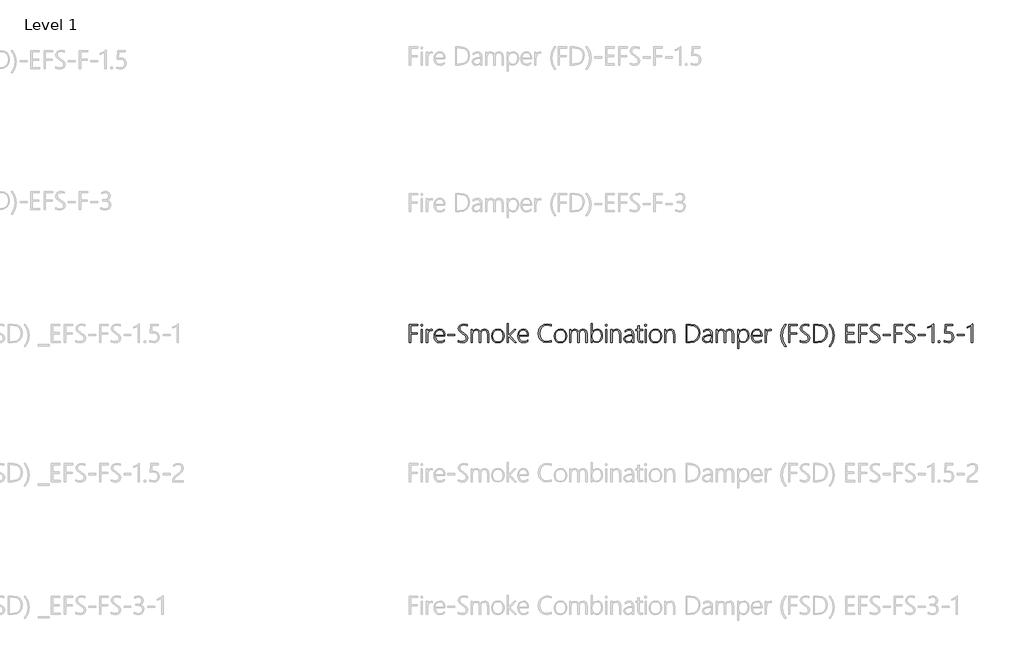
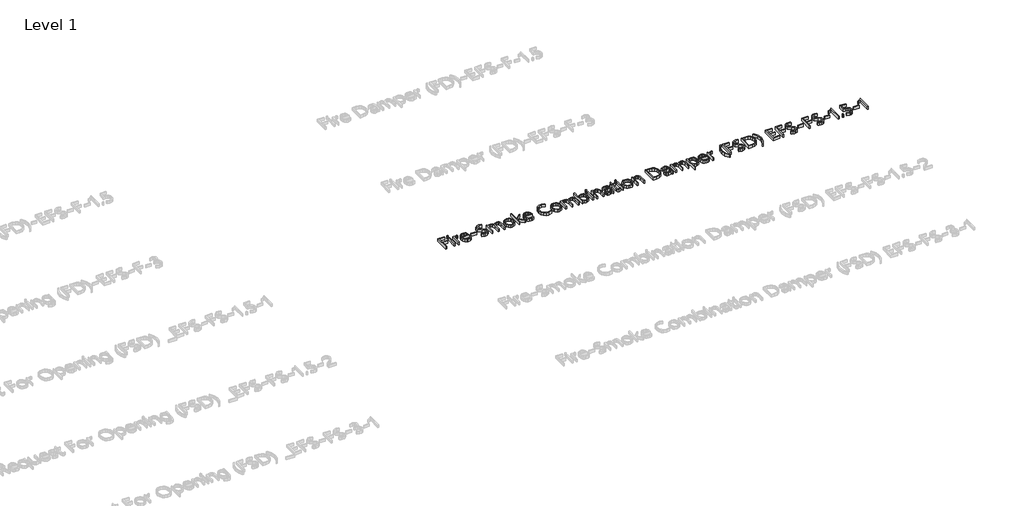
# One storey, part 11 of 13: 1 proxy.
"""IFC4 building model written with IfcOpenShell, lengths in millimetres."""

from ifc_helpers import new_model, si_unit, origin, origin_with_axes, place, context, project, spatial, polyline, outline, extrude, element, save

model = new_model("IFC4")

# Units and contexts
model_context = context("Model", 3, world=origin())
ifc_project = project(units=[si_unit("LENGTHUNIT", "METRE", prefix="MILLI")], contexts=[model_context])

# Site, building, storey
site = spatial("IfcSite", under=ifc_project)
building = spatial("IfcBuilding", under=site)
storey = spatial("IfcBuildingStorey", under=building, Name="Level 1", Elevation=0.0)

# Proxy
placement = place(None, origin())
element("IfcBuildingElementProxy", 1, Name="24\" Arial", ObjectType="24\" Arial", at=placement, inside=storey, context=model_context, shape_type="SweptSolid", body=[
    extrude(outline(polyline([(-11432.1552252, 6318.638518), (-11432.1552252, 6277.8448825), (-11395.1999406, 6277.8448825), (-11395.1999406, 6271.5666498), (-11432.1552252, 6271.5666498), (-11432.1552252, 6224.970856), (-11439.0583058, 6224.970856), (-11439.0583058, 6324.9762601), (-11392.3137388, 6324.9762601), (-11392.3137388, 6318.638518), (-11432.1552252, 6318.638518)])), origin_with_axes(), (0.0, 0.0, 1.0), 20.0),
    extrude(outline(polyline([(-11370.6523481, 6314.383602), (-11374.3419256, 6315.9159668), (-11375.9486771, 6319.8287043), (-11374.312171, 6323.5480365), (-11370.6523481, 6324.9762601), (-11366.8437519, 6323.5777912), (-11365.2072458, 6319.8287043), (-11366.8139973, 6315.9903535), (-11370.6523481, 6314.383602)])), origin_with_axes(), (0.0, 0.0, 1.0), 20.0),
    extrude(outline(polyline([(-11373.8063418, 6224.970856), (-11373.8063418, 6296.3820342), (-11367.3793358, 6296.3820342), (-11367.3793358, 6224.970856), (-11373.8063418, 6224.970856)])), origin_with_axes(), (0.0, 0.0, 1.0), 20.0),
    extrude(outline(polyline([(-11311.5595982, 6289.6872362), (-11319.0875266, 6291.9783448), (-11326.8348955, 6289.7988162), (-11333.2358662, 6283.2602302), (-11337.5316949, 6272.7122041), (-11338.9636378, 6258.5043551), (-11338.9636378, 6224.970856), (-11345.2418706, 6224.970856), (-11345.2418706, 6296.3820342), (-11338.9636378, 6296.3820342), (-11338.9636378, 6280.5525563), (-11330.9298803, 6293.2429178), (-11318.6709614, 6297.7805031), (-11311.5595982, 6296.5308074), (-11311.5595982, 6289.6872362)])), origin_with_axes(), (0.0, 0.0, 1.0), 20.0),
    extrude(outline(polyline([(-11296.0871763, 6260.4086532), (-11294.3874415, 6247.2868492), (-11289.288237, 6237.3785482), (-11281.2284442, 6231.1523862), (-11270.6469441, 6229.0769988), (-11258.7748357, 6231.2937208), (-11247.2002739, 6237.9438867), (-11247.2002739, 6231.1003155), (-11258.9384863, 6225.1865773), (-11271.956149, 6223.2153313), (-11284.4382279, 6225.6924065), (-11294.2721422, 6233.1236322), (-11300.6545162, 6245.0701272), (-11302.7819742, 6261.0930103), (-11300.5578136, 6275.4868259), (-11293.8853316, 6287.4258822), (-11283.6571681, 6295.4596398), (-11270.7659627, 6298.1375589), (-11259.0091537, 6295.798099), (-11250.3393903, 6288.7797192), (-11244.99471, 6277.7221445), (-11243.2131498, 6263.2651003), (-11243.2131498, 6260.4086532), (-11296.0871763, 6260.4086532)]), holes=[polyline([(-11249.9079478, 6266.2703207), (-11251.6188406, 6277.2200347), (-11255.8588793, 6285.4323202), (-11262.4123426, 6290.5649986), (-11271.0635093, 6292.2758914), (-11280.2316631, 6290.5910339), (-11287.6814855, 6285.5364615), (-11293.0112886, 6277.3502113), (-11295.8193844, 6266.2703207), (-11249.9079478, 6266.2703207)])]), origin_with_axes(), (0.0, 0.0, 1.0), 20.0),
    extrude(outline(polyline([(-11226.5802963, 6263.6816655), (-11226.5802963, 6269.9598983), (-11188.4348253, 6269.9598983), (-11188.4348253, 6263.6816655), (-11226.5802963, 6263.6816655)])), origin_with_axes(), (0.0, 0.0, 1.0), 20.0),
    extrude(outline(polyline([(-11169.867919, 6228.541415), (-11169.867919, 6236.3966445), (-11159.0595396, 6231.2862821), (-11148.1172643, 6229.582828), (-11130.3239791, 6234.4179598), (-11125.7715165, 6240.2238374), (-11124.254029, 6247.9712063), (-11128.3452944, 6260.2152479), (-11146.0344383, 6272.6675721), (-11165.2708244, 6287.5002689), (-11169.3025805, 6301.261798), (-11167.2457898, 6311.0547997), (-11161.0754177, 6319.2484885), (-11151.4758213, 6324.7940128), (-11139.1313577, 6326.6425209), (-11121.2785632, 6323.6373005), (-11121.2785632, 6316.4069187), (-11140.0239975, 6320.3642881), (-11156.1658992, 6315.2018551), (-11160.6402558, 6309.3439068), (-11162.131708, 6302.0949284), (-11158.0553199, 6289.8955188), (-11140.4405627, 6277.5473359), (-11121.7843924, 6263.4287509), (-11117.1426658, 6249.2506566), (-11119.1399472, 6238.7993331), (-11125.1317914, 6230.4754677), (-11134.7685811, 6225.0303654), (-11147.7006991, 6223.2153313), (-11159.5876848, 6224.8220828), (-11169.867919, 6228.541415)])), origin_with_axes(), (0.0, 0.0, 1.0), 20.0),
    extrude(outline(polyline([(-11008.1216006, 6224.970856), (-11008.1216006, 6267.9365815), (-11012.3467619, 6286.8307891), (-11017.7993029, 6290.9146158), (-11025.7066032, 6292.2758914), (-11033.5581134, 6290.4608573), (-11040.271508, 6285.015755), (-11044.8797606, 6276.8332241), (-11046.4158448, 6266.8059046), (-11046.4158448, 6224.970856), (-11052.8428509, 6224.970856), (-11052.8428509, 6268.4126561), (-11057.3729975, 6286.3100826), (-11063.0356807, 6290.7844392), (-11070.9634373, 6292.2758914), (-11078.9488435, 6290.4534186), (-11085.4688329, 6284.9860003), (-11089.8092935, 6276.6249415), (-11091.2561137, 6266.1215474), (-11091.2561137, 6224.970856), (-11097.6831198, 6224.970856), (-11097.6831198, 6296.3820342), (-11091.2561137, 6296.3820342), (-11091.2561137, 6284.5396805), (-11081.7941327, 6294.7380893), (-11069.1484032, 6298.1375589), (-11055.8034393, 6293.6297283), (-11048.2903883, 6281.802252), (-11038.7093885, 6293.8380109), (-11025.1412647, 6298.1375589), (-11014.8963642, 6296.3243845), (-11007.5785781, 6290.8848612), (-11003.1879064, 6281.818989), (-11001.7243492, 6269.1267678), (-11001.7243492, 6224.970856), (-11008.1216006, 6224.970856)])), origin_with_axes(), (0.0, 0.0, 1.0), 20.0),
    extrude(outline(polyline([(-10950.9331488, 6223.2153313), (-10964.9252765, 6225.7891091), (-10975.6592692, 6233.5104428), (-10982.4879631, 6245.3453578), (-10984.7641944, 6260.2598799), (-10982.3838218, 6276.115393), (-10975.242704, 6288.095362), (-10964.2186034, 6295.6270097), (-10950.1892823, 6298.1375589), (-10936.5058592, 6295.641887), (-10926.0433777, 6288.1548713), (-10919.4043698, 6276.2567277), (-10917.1913671, 6260.5276718), (-10919.4490018, 6245.4494991), (-10926.2219057, 6233.5401974), (-10936.9149857, 6225.7965478), (-10950.9331488, 6223.2153313)]), holes=[polyline([(-10950.4570742, 6292.2758914), (-10961.7935988, 6290.1484334), (-10970.5712227, 6283.7660594), (-10976.194853, 6273.5974051), (-10978.0693964, 6260.1111066), (-10976.239485, 6247.4728158), (-10970.7497507, 6237.5868308), (-10962.0837067, 6231.2044568), (-10950.7248662, 6229.0769988), (-10939.3176743, 6231.1709828), (-10930.8636323, 6237.4529349), (-10925.6305319, 6247.4467805), (-10923.8861651, 6260.6764451), (-10925.6193739, 6274.166463), (-10930.8190003, 6284.1082379), (-10939.1949364, 6290.233978), (-10950.4570742, 6292.2758914)])]), origin_with_axes(), (0.0, 0.0, 1.0), 20.0),
    extrude(outline(polyline([(-10858.7532197, 6224.970856), (-10892.9413212, 6260.2598799), (-10893.2091131, 6224.970856), (-10899.6361192, 6224.970856), (-10899.6361192, 6330.6891543), (-10893.2091131, 6330.6891543), (-10893.2091131, 6262.5509885), (-10860.5087445, 6296.3820342), (-10852.207195, 6296.3820342), (-10886.09775, 6261.8071221), (-10849.4697665, 6224.970856), (-10858.7532197, 6224.970856)])), origin_with_axes(), (0.0, 0.0, 1.0), 20.0),
    extrude(outline(polyline([(-10835.2470402, 6260.4086532), (-10833.5473054, 6247.2868492), (-10828.448101, 6237.3785482), (-10820.3883081, 6231.1523862), (-10809.806808, 6229.0769988), (-10797.9346997, 6231.2937208), (-10786.3601379, 6237.9438867), (-10786.3601379, 6231.1003155), (-10798.0983503, 6225.1865773), (-10811.116013, 6223.2153313), (-10823.5980918, 6225.6924065), (-10833.4320061, 6233.1236322), (-10839.8143802, 6245.0701272), (-10841.9418382, 6261.0930103), (-10839.7176775, 6275.4868259), (-10833.0451956, 6287.4258822), (-10822.817032, 6295.4596398), (-10809.9258267, 6298.1375589), (-10798.1690176, 6295.798099), (-10789.4992543, 6288.7797192), (-10784.1545739, 6277.7221445), (-10782.3730138, 6263.2651003), (-10782.3730138, 6260.4086532), (-10835.2470402, 6260.4086532)]), holes=[polyline([(-10789.0678117, 6266.2703207), (-10790.7787045, 6277.2200347), (-10795.0187432, 6285.4323202), (-10801.5722066, 6290.5649986), (-10810.2233732, 6292.2758914), (-10819.3915271, 6290.5910339), (-10826.8413495, 6285.5364615), (-10832.1711525, 6277.3502113), (-10834.9792483, 6266.2703207), (-10789.0678117, 6266.2703207)])]), origin_with_axes(), (0.0, 0.0, 1.0), 20.0),
    extrude(outline(polyline([(-10656.5703217, 6228.2438684), (-10681.8915352, 6223.2153313), (-10700.5030735, 6226.6594329), (-10715.3357703, 6236.9917377), (-10725.0432274, 6252.8732862), (-10728.2790464, 6272.9651187), (-10724.7717161, 6294.868266), (-10714.2497253, 6311.9585974), (-10698.3272642, 6322.97154), (-10678.6185229, 6326.6425209), (-10656.5703217, 6322.9529433), (-10656.5703217, 6315.6332976), (-10678.7375415, 6320.3642881), (-10695.8092763, 6317.1731011), (-10709.3550842, 6307.59954), (-10718.1922175, 6292.7296499), (-10721.1379285, 6273.6494758), (-10718.3223941, 6255.3652387), (-10709.8757907, 6241.395427), (-10697.1073232, 6232.5359777), (-10681.3261968, 6229.582828), (-10656.5703217, 6234.9386663), (-10656.5703217, 6228.2438684)])), origin_with_axes(), (0.0, 0.0, 1.0), 20.0),
    extrude(outline(polyline([(-10606.2551958, 6223.2153313), (-10620.2473235, 6225.7891091), (-10630.9813162, 6233.5104428), (-10637.8100101, 6245.3453578), (-10640.0862414, 6260.2598799), (-10637.7058688, 6276.115393), (-10630.564751, 6288.095362), (-10619.5406504, 6295.6270097), (-10605.5113293, 6298.1375589), (-10591.8279062, 6295.641887), (-10581.3654247, 6288.1548713), (-10574.7264168, 6276.2567277), (-10572.5134141, 6260.5276718), (-10574.7710488, 6245.4494991), (-10581.5439527, 6233.5401974), (-10592.2370327, 6225.7965478), (-10606.2551958, 6223.2153313)]), holes=[polyline([(-10605.7791212, 6292.2758914), (-10617.1156458, 6290.1484334), (-10625.8932697, 6283.7660594), (-10631.5169, 6273.5974051), (-10633.3914434, 6260.1111066), (-10631.561532, 6247.4728158), (-10626.0717977, 6237.5868308), (-10617.4057537, 6231.2044568), (-10606.0469132, 6229.0769988), (-10594.6397213, 6231.1709828), (-10586.1856793, 6237.4529349), (-10580.9525789, 6247.4467805), (-10579.2082121, 6260.6764451), (-10580.9414209, 6274.166463), (-10586.1410473, 6284.1082379), (-10594.5169834, 6290.233978), (-10605.7791212, 6292.2758914)])]), origin_with_axes(), (0.0, 0.0, 1.0), 20.0),
    extrude(outline(polyline([(-10465.396647, 6224.970856), (-10465.396647, 6267.9365815), (-10469.6218083, 6286.8307891), (-10475.0743493, 6290.9146158), (-10482.9816496, 6292.2758914), (-10490.8331598, 6290.4608573), (-10497.5465544, 6285.015755), (-10502.154807, 6276.8332241), (-10503.6908912, 6266.8059046), (-10503.6908912, 6224.970856), (-10510.1178972, 6224.970856), (-10510.1178972, 6268.4126561), (-10514.6480439, 6286.3100826), (-10520.3107271, 6290.7844392), (-10528.2384837, 6292.2758914), (-10536.2238899, 6290.4534186), (-10542.7438792, 6284.9860003), (-10547.0843399, 6276.6249415), (-10548.5311601, 6266.1215474), (-10548.5311601, 6224.970856), (-10554.9581662, 6224.970856), (-10554.9581662, 6296.3820342), (-10548.5311601, 6296.3820342), (-10548.5311601, 6284.5396805), (-10539.069179, 6294.7380893), (-10526.4234496, 6298.1375589), (-10513.0784857, 6293.6297283), (-10505.5654346, 6281.802252), (-10495.9844349, 6293.8380109), (-10482.4163111, 6298.1375589), (-10472.1714105, 6296.3243845), (-10464.8536245, 6290.8848612), (-10460.4629528, 6281.818989), (-10458.9993956, 6269.1267678), (-10458.9993956, 6224.970856), (-10465.396647, 6224.970856)])), origin_with_axes(), (0.0, 0.0, 1.0), 20.0),
    extrude(outline(polyline([(-10430.1968871, 6237.6760948), (-10430.464679, 6224.970856), (-10436.891685, 6224.970856), (-10436.891685, 6330.6891543), (-10430.464679, 6330.6891543), (-10430.464679, 6281.6534787), (-10419.2025411, 6293.8380109), (-10403.4772046, 6298.1375589), (-10391.3707783, 6295.7906603), (-10382.2472564, 6288.7499645), (-10376.5232042, 6277.6849512), (-10374.6151868, 6263.2651003), (-10376.8281894, 6247.0450926), (-10383.4671974, 6234.2691865), (-10393.6470096, 6225.9787951), (-10406.482425, 6223.2153313), (-10420.4299207, 6226.8305221), (-10430.1968871, 6237.6760948)]), holes=[polyline([(-10430.464679, 6264.247004), (-10430.464679, 6255.2313428), (-10428.7723828, 6245.2486552), (-10423.6954944, 6236.7834551), (-10415.8663001, 6231.0036129), (-10405.9170865, 6229.0769988), (-10395.9976276, 6231.4238974), (-10388.1386786, 6238.4645932), (-10383.0171582, 6249.3213239), (-10381.3099847, 6263.116327), (-10382.8795429, 6275.12977), (-10387.5882175, 6284.3909072), (-10394.9078632, 6290.3046454), (-10404.310335, 6292.2758914), (-10415.3902256, 6290.1819074), (-10423.6359851, 6283.8999553), (-10428.7575055, 6274.7987494), (-10430.464679, 6264.247004)])]), origin_with_axes(), (0.0, 0.0, 1.0), 20.0),
    extrude(outline(polyline([(-10356.9111655, 6224.970856), (-10356.9111655, 6296.3820342), (-10350.4841595, 6296.3820342), (-10350.4841595, 6224.970856), (-10356.9111655, 6224.970856)])), origin_with_axes(), (0.0, 0.0, 1.0), 20.0),
    extrude(outline(polyline([(-10353.7571718, 6314.383602), (-10357.4467494, 6315.9159668), (-10359.0535009, 6319.8287043), (-10357.4169947, 6323.5480365), (-10353.7571718, 6324.9762601), (-10349.9485757, 6323.5777912), (-10348.3120695, 6319.8287043), (-10349.918821, 6315.9903535), (-10353.7571718, 6314.383602)])), origin_with_axes(), (0.0, 0.0, 1.0), 20.0),
    extrude(outline(polyline([(-10279.7870932, 6224.970856), (-10279.7870932, 6266.5381126), (-10284.4288198, 6285.8414467), (-10290.230978, 6290.6672802), (-10298.3539995, 6292.2758914), (-10307.7527519, 6290.3827513), (-10315.299277, 6284.7033311), (-10320.2645854, 6276.2344117), (-10321.9196883, 6265.9727741), (-10321.9196883, 6224.970856), (-10328.3466943, 6224.970856), (-10328.3466943, 6296.3820342), (-10321.9196883, 6296.3820342), (-10321.9196883, 6283.4090035), (-10311.6320154, 6294.4554201), (-10297.2233225, 6298.1375589), (-10287.0100363, 6296.2109449), (-10279.5193013, 6290.4311026), (-10274.9222067, 6281.0732628), (-10273.3898418, 6268.4126561), (-10273.3898418, 6224.970856), (-10279.7870932, 6224.970856)])), origin_with_axes(), (0.0, 0.0, 1.0), 20.0),
    extrude(outline(polyline([(-10209.4768374, 6224.970856), (-10209.4768374, 6239.2530917), (-10219.6975623, 6227.5743886), (-10234.1732032, 6223.2153313), (-10243.2892864, 6224.6472741), (-10250.2853502, 6228.9431028), (-10254.7373909, 6235.4184602), (-10256.2214044, 6243.3889891), (-10254.6741622, 6251.8076975), (-10250.0324356, 6258.3778978), (-10231.4655293, 6265.9727741), (-10209.4768374, 6269.2457865), (-10213.7987014, 6286.5183652), (-10219.2010314, 6290.8365099), (-10226.7642934, 6292.2758914), (-10238.4132419, 6289.9029575), (-10249.7348891, 6282.7841557), (-10249.7348891, 6290.5203666), (-10238.9488257, 6295.9059596), (-10226.1394456, 6298.1375589), (-10216.3761986, 6296.4266661), (-10209.1049042, 6291.2939877), (-10204.5859156, 6282.9031743), (-10203.079586, 6271.4178765), (-10203.079586, 6224.970856), (-10209.4768374, 6224.970856)]), holes=[polyline([(-10229.144666, 6260.5276718), (-10244.9146345, 6255.3354841), (-10249.4373425, 6243.656781), (-10245.2270584, 6233.1980189), (-10233.4590914, 6229.0769988), (-10224.0268649, 6230.9887355), (-10216.3204086, 6236.7239458), (-10211.1877302, 6245.4718151), (-10209.4768374, 6256.4215291), (-10209.4768374, 6263.3841189), (-10229.144666, 6260.5276718)])]), origin_with_axes(), (0.0, 0.0, 1.0), 20.0),
    extrude(outline(polyline([(-10153.4488173, 6225.9527597), (-10162.8810437, 6223.5723871), (-10174.7531521, 6228.318255), (-10178.7105215, 6242.5558587), (-10178.7105215, 6290.5203666), (-10191.5347789, 6290.5203666), (-10191.5347789, 6296.3820342), (-10178.7105215, 6296.3820342), (-10178.7105215, 6314.9191858), (-10175.4970185, 6316.0498628), (-10172.2835155, 6317.0912758), (-10172.2835155, 6296.3820342), (-10153.4488173, 6296.3820342), (-10153.4488173, 6290.5203666), (-10172.2835155, 6290.5203666), (-10172.2835155, 6243.3889891), (-10169.9477749, 6232.6773124), (-10162.0479133, 6229.3745454), (-10153.4488173, 6231.9334459), (-10153.4488173, 6225.9527597)])), origin_with_axes(), (0.0, 0.0, 1.0), 20.0),
    extrude(outline(polyline([(-10136.6671904, 6314.383602), (-10140.3567679, 6315.9159668), (-10141.9635194, 6319.8287043), (-10140.3270133, 6323.5480365), (-10136.6671904, 6324.9762601), (-10132.8585942, 6323.5777912), (-10131.2220881, 6319.8287043), (-10132.8288396, 6315.9903535), (-10136.6671904, 6314.383602)])), origin_with_axes(), (0.0, 0.0, 1.0), 20.0),
    extrude(outline(polyline([(-10139.8211841, 6224.970856), (-10139.8211841, 6296.3820342), (-10133.3941781, 6296.3820342), (-10133.3941781, 6224.970856), (-10139.8211841, 6224.970856)])), origin_with_axes(), (0.0, 0.0, 1.0), 20.0),
    extrude(outline(polyline([(-10082.573223, 6223.2153313), (-10096.5653507, 6225.7891091), (-10107.2993434, 6233.5104428), (-10114.1280373, 6245.3453578), (-10116.4042686, 6260.2598799), (-10114.023896, 6276.115393), (-10106.8827782, 6288.095362), (-10095.8586776, 6295.6270097), (-10081.8293565, 6298.1375589), (-10068.1459334, 6295.641887), (-10057.6834519, 6288.1548713), (-10051.044444, 6276.2567277), (-10048.8314413, 6260.5276718), (-10051.089076, 6245.4494991), (-10057.8619799, 6233.5401974), (-10068.5550599, 6225.7965478), (-10082.573223, 6223.2153313)]), holes=[polyline([(-10082.0971485, 6292.2758914), (-10093.433673, 6290.1484334), (-10102.211297, 6283.7660594), (-10107.8349272, 6273.5974051), (-10109.7094707, 6260.1111066), (-10107.8795592, 6247.4728158), (-10102.3898249, 6237.5868308), (-10093.7237809, 6231.2044568), (-10082.3649404, 6229.0769988), (-10070.9577485, 6231.1709828), (-10062.5037065, 6237.4529349), (-10057.2706061, 6247.4467805), (-10055.5262393, 6260.6764451), (-10057.2594481, 6274.166463), (-10062.4590745, 6284.1082379), (-10070.8350106, 6290.233978), (-10082.0971485, 6292.2758914)])]), origin_with_axes(), (0.0, 0.0, 1.0), 20.0),
    extrude(outline(polyline([(-9982.7165923, 6224.970856), (-9982.7165923, 6266.5381126), (-9987.3583188, 6285.8414467), (-9993.1604771, 6290.6672802), (-10001.2834986, 6292.2758914), (-10010.682251, 6290.3827513), (-10018.228776, 6284.7033311), (-10023.1940845, 6276.2344117), (-10024.8491873, 6265.9727741), (-10024.8491873, 6224.970856), (-10031.2761934, 6224.970856), (-10031.2761934, 6296.3820342), (-10024.8491873, 6296.3820342), (-10024.8491873, 6283.4090035), (-10014.5615145, 6294.4554201), (-10000.1528216, 6298.1375589), (-9989.9395354, 6296.2109449), (-9982.4488003, 6290.4311026), (-9977.8517058, 6281.0732628), (-9976.3193409, 6268.4126561), (-9976.3193409, 6224.970856), (-9982.7165923, 6224.970856)])), origin_with_axes(), (0.0, 0.0, 1.0), 20.0),
    extrude(outline(polyline([(-9913.7155414, 6224.970856), (-9913.7155414, 6324.9762601), (-9888.6621198, 6324.9762601), (-9866.7626918, 6321.874337), (-9850.8141954, 6312.5685679), (-9841.0844223, 6297.3118672), (-9837.8411647, 6276.3571496), (-9841.3187403, 6255.6516273), (-9851.7514671, 6239.2382143), (-9868.3062147, 6228.5376956), (-9890.1498526, 6224.970856), (-9913.7155414, 6224.970856)]), holes=[polyline([(-9906.8124609, 6318.638518), (-9906.8124609, 6231.2490888), (-9891.1020017, 6231.2490888), (-9871.4490504, 6234.1352906), (-9856.9436548, 6242.7938959), (-9847.9949416, 6256.8901649), (-9845.0120371, 6276.0893577), (-9847.8052556, 6294.7046153), (-9856.184911, 6308.0012279), (-9870.1510034, 6315.9791955), (-9889.7035328, 6318.638518), (-9906.8124609, 6318.638518)])]), origin_with_axes(), (0.0, 0.0, 1.0), 20.0),
    extrude(outline(polyline([(-9775.2968745, 6224.970856), (-9775.2968745, 6239.2530917), (-9785.5175994, 6227.5743886), (-9799.9932403, 6223.2153313), (-9809.1093235, 6224.6472741), (-9816.1053873, 6228.9431028), (-9820.557428, 6235.4184602), (-9822.0414415, 6243.3889891), (-9820.4941993, 6251.8076975), (-9815.8524727, 6258.3778978), (-9797.2855664, 6265.9727741), (-9775.2968745, 6269.2457865), (-9779.6187385, 6286.5183652), (-9785.0210685, 6290.8365099), (-9792.5843305, 6292.2758914), (-9804.233279, 6289.9029575), (-9815.5549262, 6282.7841557), (-9815.5549262, 6290.5203666), (-9804.7688628, 6295.9059596), (-9791.9594827, 6298.1375589), (-9782.1962357, 6296.4266661), (-9774.9249413, 6291.2939877), (-9770.4059527, 6282.9031743), (-9768.8996231, 6271.4178765), (-9768.8996231, 6224.970856), (-9775.2968745, 6224.970856)]), holes=[polyline([(-9794.9647032, 6260.5276718), (-9810.7346716, 6255.3354841), (-9815.2573796, 6243.656781), (-9811.0470956, 6233.1980189), (-9799.2791285, 6229.0769988), (-9789.8469021, 6230.9887355), (-9782.1404457, 6236.7239458), (-9777.0077673, 6245.4718151), (-9775.2968745, 6256.4215291), (-9775.2968745, 6263.3841189), (-9794.9647032, 6260.5276718)])]), origin_with_axes(), (0.0, 0.0, 1.0), 20.0),
    extrude(outline(polyline([(-9657.9742598, 6224.970856), (-9657.9742598, 6267.9365815), (-9662.1994212, 6286.8307891), (-9667.6519622, 6290.9146158), (-9675.5592624, 6292.2758914), (-9683.4107727, 6290.4608573), (-9690.1241673, 6285.015755), (-9694.7324199, 6276.8332241), (-9696.2685041, 6266.8059046), (-9696.2685041, 6224.970856), (-9702.6955101, 6224.970856), (-9702.6955101, 6268.4126561), (-9707.2256567, 6286.3100826), (-9712.88834, 6290.7844392), (-9720.8160965, 6292.2758914), (-9728.8015028, 6290.4534186), (-9735.3214921, 6284.9860003), (-9739.6619528, 6276.6249415), (-9741.108773, 6266.1215474), (-9741.108773, 6224.970856), (-9747.535779, 6224.970856), (-9747.535779, 6296.3820342), (-9741.108773, 6296.3820342), (-9741.108773, 6284.5396805), (-9731.6467919, 6294.7380893), (-9719.0010624, 6298.1375589), (-9705.6560985, 6293.6297283), (-9698.1430475, 6281.802252), (-9688.5620478, 6293.8380109), (-9674.9939239, 6298.1375589), (-9664.7490234, 6296.3243845), (-9657.4312373, 6290.8848612), (-9653.0405657, 6281.818989), (-9651.5770084, 6269.1267678), (-9651.5770084, 6224.970856), (-9657.9742598, 6224.970856)])), origin_with_axes(), (0.0, 0.0, 1.0), 20.0),
    extrude(outline(polyline([(-9622.7744999, 6237.6760948), (-9623.0422919, 6192.1217141), (-9629.4692979, 6192.1217141), (-9629.4692979, 6296.3820342), (-9623.0422919, 6296.3820342), (-9623.0422919, 6281.6534787), (-9611.780154, 6293.8380109), (-9596.0548175, 6298.1375589), (-9583.9483912, 6295.7906603), (-9574.8248693, 6288.7499645), (-9569.1008171, 6277.6849512), (-9567.1927996, 6263.2651003), (-9569.379767, 6247.0450926), (-9575.940669, 6234.2691865), (-9586.0944459, 6225.9787951), (-9599.0600379, 6223.2153313), (-9613.0075336, 6226.8305221), (-9622.7744999, 6237.6760948)]), holes=[polyline([(-9623.0422919, 6264.247004), (-9623.0422919, 6255.2313428), (-9621.3499957, 6245.2486552), (-9616.2731073, 6236.7834551), (-9608.443913, 6231.0036129), (-9598.4946994, 6229.0769988), (-9588.5752404, 6231.4238974), (-9580.7162915, 6238.4645932), (-9575.5947711, 6249.3213239), (-9573.8875976, 6263.116327), (-9575.4571558, 6275.12977), (-9580.1658303, 6284.3909072), (-9587.4854761, 6290.3046454), (-9596.8879479, 6292.2758914), (-9607.9678385, 6290.1819074), (-9616.213598, 6283.8999553), (-9621.3351184, 6274.7987494), (-9623.0422919, 6264.247004)])]), origin_with_axes(), (0.0, 0.0, 1.0), 20.0),
    extrude(outline(polyline([(-9547.9415362, 6260.4086532), (-9546.2418014, 6247.2868492), (-9541.142597, 6237.3785482), (-9533.0828041, 6231.1523862), (-9522.501304, 6229.0769988), (-9510.6291957, 6231.2937208), (-9499.0546339, 6237.9438867), (-9499.0546339, 6231.1003155), (-9510.7928463, 6225.1865773), (-9523.8105089, 6223.2153313), (-9536.2925878, 6225.6924065), (-9546.1265021, 6233.1236322), (-9552.5088761, 6245.0701272), (-9554.6363342, 6261.0930103), (-9552.4121735, 6275.4868259), (-9545.7396916, 6287.4258822), (-9535.511528, 6295.4596398), (-9522.6203226, 6298.1375589), (-9510.8635136, 6295.798099), (-9502.1937502, 6288.7797192), (-9496.8490699, 6277.7221445), (-9495.0675098, 6263.2651003), (-9495.0675098, 6260.4086532), (-9547.9415362, 6260.4086532)]), holes=[polyline([(-9501.7623077, 6266.2703207), (-9503.4732005, 6277.2200347), (-9507.7132392, 6285.4323202), (-9514.2667025, 6290.5649986), (-9522.9178692, 6292.2758914), (-9532.0860231, 6290.5910339), (-9539.5358455, 6285.5364615), (-9544.8656485, 6277.3502113), (-9547.6737443, 6266.2703207), (-9501.7623077, 6266.2703207)])]), origin_with_axes(), (0.0, 0.0, 1.0), 20.0),
    extrude(outline(polyline([(-9443.4431789, 6289.6872362), (-9450.9711073, 6291.9783448), (-9458.7184762, 6289.7988162), (-9465.1194469, 6283.2602302), (-9469.4152756, 6272.7122041), (-9470.8472185, 6258.5043551), (-9470.8472185, 6224.970856), (-9477.1254513, 6224.970856), (-9477.1254513, 6296.3820342), (-9470.8472185, 6296.3820342), (-9470.8472185, 6280.5525563), (-9462.813461, 6293.2429178), (-9450.5545421, 6297.7805031), (-9443.4431789, 6296.5308074), (-9443.4431789, 6289.6872362)])), origin_with_axes(), (0.0, 0.0, 1.0), 20.0),
    extrude(outline(polyline([(-9369.3540816, 6202.2382977), (-9385.1984368, 6229.7687946), (-9390.4798885, 6262.9675537), (-9385.1314888, 6297.3044285), (-9369.0862897, 6324.9762601), (-9362.2427185, 6324.9762601), (-9378.6226575, 6296.9548113), (-9384.0826371, 6263.116327), (-9378.6970441, 6230.5647317), (-9362.5402651, 6202.2382977), (-9369.3540816, 6202.2382977)])), origin_with_axes(), (0.0, 0.0, 1.0), 20.0),
    extrude(outline(polyline([(-9341.2359302, 6318.638518), (-9341.2359302, 6277.8448825), (-9304.2806456, 6277.8448825), (-9304.2806456, 6271.5666498), (-9341.2359302, 6271.5666498), (-9341.2359302, 6224.970856), (-9348.1390108, 6224.970856), (-9348.1390108, 6324.9762601), (-9301.3944438, 6324.9762601), (-9301.3944438, 6318.638518), (-9341.2359302, 6318.638518)])), origin_with_axes(), (0.0, 0.0, 1.0), 20.0),
    extrude(outline(polyline([(-9284.6128169, 6228.541415), (-9284.6128169, 6236.3966445), (-9273.8044376, 6231.2862821), (-9262.8621623, 6229.582828), (-9245.0688771, 6234.4179598), (-9240.5164145, 6240.2238374), (-9238.9989269, 6247.9712063), (-9243.0901923, 6260.2152479), (-9260.7793362, 6272.6675721), (-9280.0157224, 6287.5002689), (-9284.0474784, 6301.261798), (-9281.9906877, 6311.0547997), (-9275.8203156, 6319.2484885), (-9266.2207192, 6324.7940128), (-9253.8762557, 6326.6425209), (-9236.0234612, 6323.6373005), (-9236.0234612, 6316.4069187), (-9254.7688954, 6320.3642881), (-9270.9107971, 6315.2018551), (-9275.3851538, 6309.3439068), (-9276.876606, 6302.0949284), (-9272.8002179, 6289.8955188), (-9255.1854606, 6277.5473359), (-9236.5292903, 6263.4287509), (-9231.8875638, 6249.2506566), (-9233.8848452, 6238.7993331), (-9239.8766893, 6230.4754677), (-9249.513479, 6225.0303654), (-9262.4455971, 6223.2153313), (-9274.3325828, 6224.8220828), (-9284.6128169, 6228.541415)])), origin_with_axes(), (0.0, 0.0, 1.0), 20.0),
    extrude(outline(polyline([(-9211.0295488, 6224.970856), (-9211.0295488, 6324.9762601), (-9185.9761272, 6324.9762601), (-9164.0766992, 6321.874337), (-9148.1282028, 6312.5685679), (-9138.3984298, 6297.3118672), (-9135.1551721, 6276.3571496), (-9138.6327477, 6255.6516273), (-9149.0654745, 6239.2382143), (-9165.6202221, 6228.5376956), (-9187.4638601, 6224.970856), (-9211.0295488, 6224.970856)]), holes=[polyline([(-9204.1264683, 6318.638518), (-9204.1264683, 6231.2490888), (-9188.4160091, 6231.2490888), (-9168.7630578, 6234.1352906), (-9154.2576622, 6242.7938959), (-9145.308949, 6256.8901649), (-9142.3260446, 6276.0893577), (-9145.119263, 6294.7046153), (-9153.4989185, 6308.0012279), (-9167.4650109, 6315.9791955), (-9187.0175402, 6318.638518), (-9204.1264683, 6318.638518)])]), origin_with_axes(), (0.0, 0.0, 1.0), 20.0),
    extrude(outline(polyline([(-9118.0164893, 6202.2382977), (-9124.8600606, 6202.2382977), (-9108.6809655, 6230.5647317), (-9103.2879339, 6263.116327), (-9108.7479135, 6296.9548113), (-9125.1278525, 6324.9762601), (-9118.2842813, 6324.9762601), (-9102.2390822, 6297.2300419), (-9096.8906825, 6262.9675537), (-9102.1721342, 6229.6944079), (-9118.0164893, 6202.2382977)])), origin_with_axes(), (0.0, 0.0, 1.0), 20.0),
    extrude(outline(polyline([(-9033.9298271, 6224.970856), (-9033.9298271, 6324.9762601), (-8987.1852601, 6324.9762601), (-8987.1852601, 6318.638518), (-9027.0267466, 6318.638518), (-9027.0267466, 6278.5292396), (-8990.0714619, 6278.5292396), (-8990.0714619, 6272.2510069), (-9027.0267466, 6272.2510069), (-9027.0267466, 6231.2490888), (-8984.8941515, 6231.2490888), (-8984.8941515, 6224.970856), (-9033.9298271, 6224.970856)])), origin_with_axes(), (0.0, 0.0, 1.0), 20.0),
    extrude(outline(polyline([(-8954.6634194, 6318.638518), (-8954.6634194, 6277.8448825), (-8917.7081348, 6277.8448825), (-8917.7081348, 6271.5666498), (-8954.6634194, 6271.5666498), (-8954.6634194, 6224.970856), (-8961.5665, 6224.970856), (-8961.5665, 6324.9762601), (-8914.821933, 6324.9762601), (-8914.821933, 6318.638518), (-8954.6634194, 6318.638518)])), origin_with_axes(), (0.0, 0.0, 1.0), 20.0),
    extrude(outline(polyline([(-8898.0403061, 6228.541415), (-8898.0403061, 6236.3966445), (-8887.2319268, 6231.2862821), (-8876.2896515, 6229.582828), (-8858.4963662, 6234.4179598), (-8853.9439036, 6240.2238374), (-8852.4264161, 6247.9712063), (-8856.5176815, 6260.2152479), (-8874.2068254, 6272.6675721), (-8893.4432115, 6287.5002689), (-8897.4749676, 6301.261798), (-8895.4181769, 6311.0547997), (-8889.2478048, 6319.2484885), (-8879.6482084, 6324.7940128), (-8867.3037449, 6326.6425209), (-8849.4509503, 6323.6373005), (-8849.4509503, 6316.4069187), (-8868.1963846, 6320.3642881), (-8884.3382863, 6315.2018551), (-8888.8126429, 6309.3439068), (-8890.3040952, 6302.0949284), (-8886.2277071, 6289.8955188), (-8868.6129498, 6277.5473359), (-8849.9567795, 6263.4287509), (-8845.315053, 6249.2506566), (-8847.3123343, 6238.7993331), (-8853.3041785, 6230.4754677), (-8862.9409682, 6225.0303654), (-8875.8730862, 6223.2153313), (-8887.7600719, 6224.8220828), (-8898.0403061, 6228.541415)])), origin_with_axes(), (0.0, 0.0, 1.0), 20.0),
    extrude(outline(polyline([(-8827.1647118, 6263.6816655), (-8827.1647118, 6269.9598983), (-8789.0192409, 6269.9598983), (-8789.0192409, 6263.6816655), (-8827.1647118, 6263.6816655)])), origin_with_axes(), (0.0, 0.0, 1.0), 20.0),
    extrude(outline(polyline([(-8760.425015, 6318.638518), (-8760.425015, 6277.8448825), (-8723.4697303, 6277.8448825), (-8723.4697303, 6271.5666498), (-8760.425015, 6271.5666498), (-8760.425015, 6224.970856), (-8767.3280955, 6224.970856), (-8767.3280955, 6324.9762601), (-8720.5835285, 6324.9762601), (-8720.5835285, 6318.638518), (-8760.425015, 6318.638518)])), origin_with_axes(), (0.0, 0.0, 1.0), 20.0),
    extrude(outline(polyline([(-8703.8019017, 6228.541415), (-8703.8019017, 6236.3966445), (-8692.9935223, 6231.2862821), (-8682.051247, 6229.582828), (-8664.2579618, 6234.4179598), (-8659.7054992, 6240.2238374), (-8658.1880117, 6247.9712063), (-8662.2792771, 6260.2152479), (-8679.968421, 6272.6675721), (-8699.2048071, 6287.5002689), (-8703.2365632, 6301.261798), (-8701.1797725, 6311.0547997), (-8695.0094004, 6319.2484885), (-8685.409804, 6324.7940128), (-8673.0653404, 6326.6425209), (-8655.2125459, 6323.6373005), (-8655.2125459, 6316.4069187), (-8673.9579801, 6320.3642881), (-8690.0998819, 6315.2018551), (-8694.5742385, 6309.3439068), (-8696.0656907, 6302.0949284), (-8691.9893026, 6289.8955188), (-8674.3745454, 6277.5473359), (-8655.7183751, 6263.4287509), (-8651.0766485, 6249.2506566), (-8653.0739299, 6238.7993331), (-8659.065774, 6230.4754677), (-8668.7025638, 6225.0303654), (-8681.6346818, 6223.2153313), (-8693.5216675, 6224.8220828), (-8703.8019017, 6228.541415)])), origin_with_axes(), (0.0, 0.0, 1.0), 20.0),
    extrude(outline(polyline([(-8632.9263074, 6263.6816655), (-8632.9263074, 6269.9598983), (-8594.7808364, 6269.9598983), (-8594.7808364, 6263.6816655), (-8632.9263074, 6263.6816655)])), origin_with_axes(), (0.0, 0.0, 1.0), 20.0),
    extrude(outline(polyline([(-8549.2264557, 6327.2078594), (-8549.2264557, 6224.970856), (-8555.6534618, 6224.970856), (-8555.6534618, 6317.0912758), (-8566.6329304, 6309.1319049), (-8580.1117903, 6303.2256054), (-8580.1117903, 6309.0872729), (-8571.9738914, 6312.3900399), (-8564.758387, 6316.466428), (-8558.063589, 6321.3759465), (-8551.458055, 6327.2078594), (-8549.2264557, 6327.2078594)])), origin_with_axes(), (0.0, 0.0, 1.0), 20.0),
    extrude(outline(polyline([(-8518.6684224, 6223.7211604), (-8522.6406692, 6225.3576666), (-8524.2325434, 6229.3745454), (-8522.6406692, 6233.3765468), (-8518.6684224, 6234.9386663), (-8514.621789, 6233.3765468), (-8512.9555282, 6229.3745454), (-8514.621789, 6225.3576666), (-8518.6684224, 6223.7211604)])), origin_with_axes(), (0.0, 0.0, 1.0), 20.0),
    extrude(outline(polyline([(-8490.9668362, 6226.9941728), (-8490.9668362, 6234.3733278), (-8471.8643461, 6229.0769988), (-8460.9220708, 6230.7692949), (-8452.672592, 6235.8461834), (-8447.4952816, 6243.7274483), (-8445.7695114, 6253.8328739), (-8447.5082992, 6264.5203749), (-8452.7246626, 6272.1543042), (-8461.4186016, 6276.7346618), (-8473.5901162, 6278.2614477), (-8487.9616158, 6277.4283173), (-8484.9563954, 6324.9762601), (-8443.3296295, 6324.9762601), (-8443.3296295, 6319.1145925), (-8479.2435012, 6319.1145925), (-8481.5643645, 6283.5577768), (-8471.2394983, 6284.1231152), (-8457.3254766, 6282.1779045), (-8447.242367, 6276.3422723), (-8441.1166269, 6267.0327838), (-8439.0747135, 6254.6660043), (-8441.2356455, 6241.9756428), (-8447.7184415, 6231.9334459), (-8458.2181163, 6225.3948599), (-8472.4296846, 6223.2153313), (-8490.9668362, 6226.9941728)])), origin_with_axes(), (0.0, 0.0, 1.0), 20.0),
    extrude(outline(polyline([(-8417.740624, 6263.6816655), (-8417.740624, 6269.9598983), (-8379.5951531, 6269.9598983), (-8379.5951531, 6263.6816655), (-8417.740624, 6263.6816655)])), origin_with_axes(), (0.0, 0.0, 1.0), 20.0),
    extrude(outline(polyline([(-8334.0407724, 6327.2078594), (-8334.0407724, 6224.970856), (-8340.4677784, 6224.970856), (-8340.4677784, 6317.0912758), (-8351.447247, 6309.1319049), (-8364.9261069, 6303.2256054), (-8364.9261069, 6309.0872729), (-8356.7882081, 6312.3900399), (-8349.5727036, 6316.466428), (-8342.8779056, 6321.3759465), (-8336.2723717, 6327.2078594), (-8334.0407724, 6327.2078594)])), origin_with_axes(), (0.0, 0.0, 1.0), 20.0),
])

save(model, "model.ifc")
